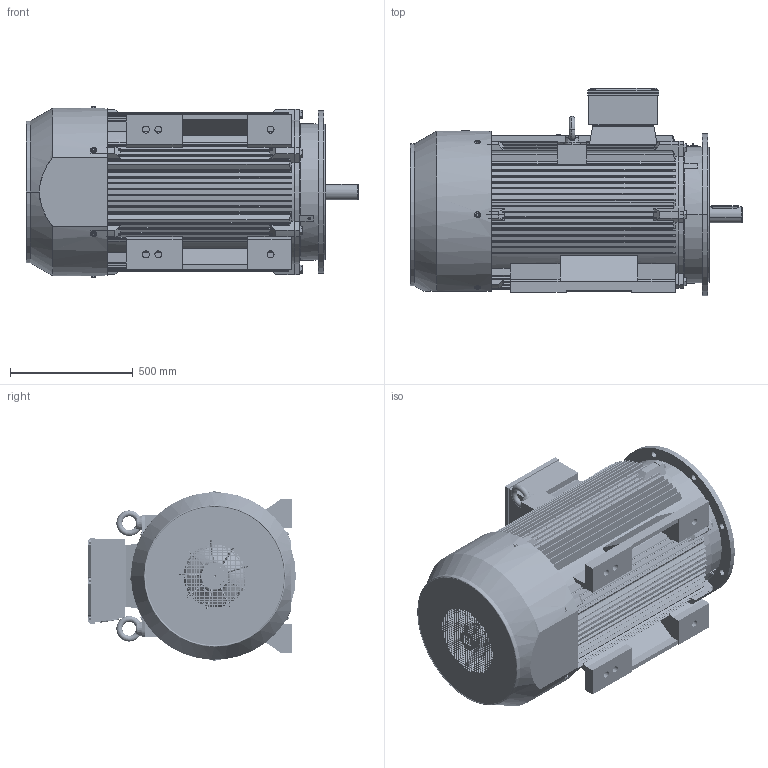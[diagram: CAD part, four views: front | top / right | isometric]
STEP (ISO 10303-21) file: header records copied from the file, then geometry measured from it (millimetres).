
FILE_DESCRIPTION (( 'STEP AP203' ), '1' );
FILE_NAME ('TC 315M-L-2 B35 ﾍ簟ﾎﾍｼ.STEP', '2016-10-19T05:57:03', ( 'ﾎ｢ﾈ橆ﾃｻｧ' ), ( 'ﾎ｢ﾈ晥ｫﾋｾ' ), 'SwSTEP 2.0', 'SolidWorks 2008', '' );
FILE_SCHEMA (( 'CONFIG_CONTROL_DESIGN' ));
Length unit declared in the file: millimetre
Products named in the file (23): TC 315M-L-2 B35 俋倛芞; M10-90_默认; 扣塞_默认; M63螺塞_默认; TC 315铭牌_默认; TC 315L-2 轴_默认; 铜油嘴_默认; 油封110-85-12_默认; TC 315M-L机壳_默认; TC 315接线盒座_默认; TC 315接线盒盖_默认; ｷ釁ﾖﾂﾝｶ､ｼﾓｵ貳ｬ_ﾄｬﾈﾏ; TC 315-4风叶_默认; M20-70_默认; M10-25_默认; 吊环M30_默认; TE315-2端盖_默认; TE315-2轴承外盖_默认; TE315-2风罩_默认; TE315-2端盖B5_默认; TX315接线盒座垫_默认; TX315接线盒座、盖垫_默认; TE315-2轴承内盖_默认
Assembly tree (45 placements, depth 2):
  TC 315M-L-2 B35 俋倛芞
    M10-25_默认  x6
    M20-70_默认  x6
    油封110-85-12_默认
    M10-90_默认  x4
    吊环M30_默认  x2
    M63螺塞_默认  x2
    ｷ釁ﾖﾂﾝｶ､ｼﾓｵ貳ｬ_ﾄｬﾈﾏ  x6
    TE315-2轴承外盖_默认  x2
    TE315-2风罩_默认
    TE315-2轴承内盖_默认
    TE315-2端盖_默认
    铜油嘴_默认  x3
    TX315接线盒座、盖垫_默认
    TC 315-4风叶_默认
    TE315-2端盖B5_默认
    TC 315接线盒座_默认
    TC 315M-L机壳_默认
    TC 315L-2 轴_默认
    TC 315接线盒盖_默认
    TC 315铭牌_默认
    TX315接线盒座垫_默认
    扣塞_默认
Bounding box: 1352 x 846 x 694.6 mm (x, y, z)
Volume: 75039003.2 mm3; surface area: 12519668.4 mm2
Topology: 48 solids, 48 shells, 7870 faces, 22301 edges, 14680 vertices
Faces by surface type: plane 3966, cylinder 3094, cone 441, torus 246, bspline 117, sphere 6
Entity records: 258008 total; most frequent: CARTESIAN_POINT 59565, ORIENTED_EDGE 41810, DIRECTION 40083, EDGE_CURVE 20905, VERTEX_POINT 13806, AXIS2_PLACEMENT_3D 13802, VECTOR 12479, LINE 12479
